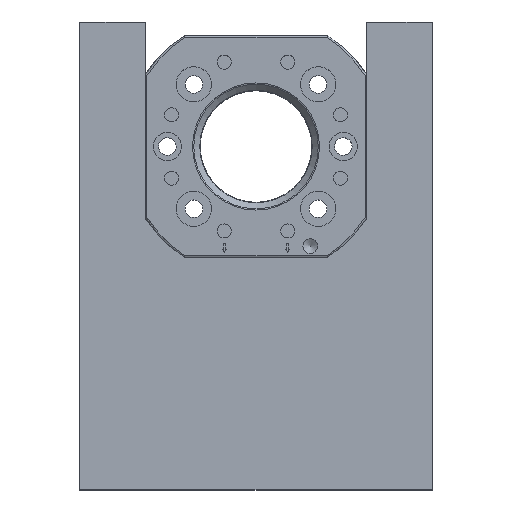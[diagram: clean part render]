
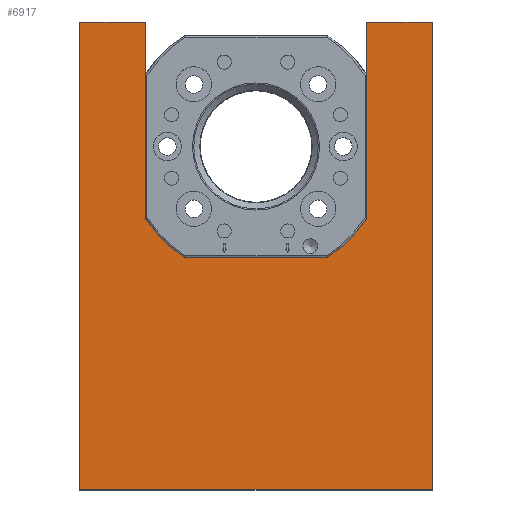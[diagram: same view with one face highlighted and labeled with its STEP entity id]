
A CAD part, top view. The second image highlights one B-rep face of the part: STEP entity #6917.
In plain terms, the highlighted planar face has unit normal (0, 0, 1).
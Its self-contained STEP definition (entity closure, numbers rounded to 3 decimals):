
#469=CIRCLE('',#7561,37.5);
#470=CIRCLE('',#7564,37.5);
#1518=FACE_OUTER_BOUND('',#1979,.T.);
#1979=EDGE_LOOP('',(#6343,#6344,#6345,#6346,#6347,#6348,#6349,#6350,#6351,
#6352));
#2431=LINE('',#13901,#2899);
#2434=LINE('',#13909,#2902);
#2437=LINE('',#13917,#2905);
#2439=LINE('',#13921,#2907);
#2441=LINE('',#13925,#2909);
#2443=LINE('',#13929,#2911);
#2445=LINE('',#13933,#2913);
#2447=LINE('',#13936,#2915);
#2899=VECTOR('',#9231,10.);
#2902=VECTOR('',#9240,10.);
#2905=VECTOR('',#9249,10.);
#2907=VECTOR('',#9253,10.);
#2909=VECTOR('',#9257,10.);
#2911=VECTOR('',#9261,10.);
#2913=VECTOR('',#9265,10.);
#2915=VECTOR('',#9269,10.);
#3532=VERTEX_POINT('',#13898);
#3533=VERTEX_POINT('',#13900);
#3534=VERTEX_POINT('',#13904);
#3535=VERTEX_POINT('',#13908);
#3536=VERTEX_POINT('',#13912);
#3537=VERTEX_POINT('',#13916);
#3538=VERTEX_POINT('',#13920);
#3539=VERTEX_POINT('',#13924);
#3540=VERTEX_POINT('',#13928);
#3541=VERTEX_POINT('',#13932);
#4460=EDGE_CURVE('',#3533,#3532,#2431,.T.);
#4462=EDGE_CURVE('',#3534,#3533,#469,.T.);
#4464=EDGE_CURVE('',#3535,#3534,#2434,.T.);
#4466=EDGE_CURVE('',#3536,#3535,#470,.T.);
#4468=EDGE_CURVE('',#3537,#3536,#2437,.T.);
#4470=EDGE_CURVE('',#3538,#3537,#2439,.T.);
#4472=EDGE_CURVE('',#3539,#3538,#2441,.T.);
#4474=EDGE_CURVE('',#3540,#3539,#2443,.T.);
#4476=EDGE_CURVE('',#3541,#3540,#2445,.T.);
#4478=EDGE_CURVE('',#3532,#3541,#2447,.T.);
#6343=ORIENTED_EDGE('',*,*,#4478,.T.);
#6344=ORIENTED_EDGE('',*,*,#4476,.T.);
#6345=ORIENTED_EDGE('',*,*,#4474,.T.);
#6346=ORIENTED_EDGE('',*,*,#4472,.T.);
#6347=ORIENTED_EDGE('',*,*,#4470,.T.);
#6348=ORIENTED_EDGE('',*,*,#4468,.T.);
#6349=ORIENTED_EDGE('',*,*,#4466,.T.);
#6350=ORIENTED_EDGE('',*,*,#4464,.T.);
#6351=ORIENTED_EDGE('',*,*,#4462,.T.);
#6352=ORIENTED_EDGE('',*,*,#4460,.T.);
#6522=PLANE('',#7571);
#6917=ADVANCED_FACE('',(#1518),#6522,.F.);
#7561=AXIS2_PLACEMENT_3D('',#13905,#9235,#9236);
#7564=AXIS2_PLACEMENT_3D('',#13913,#9244,#9245);
#7571=AXIS2_PLACEMENT_3D('',#13937,#9270,#9271);
#9231=DIRECTION('',(0.,1.,0.));
#9235=DIRECTION('center_axis',(0.,0.,
-1.));
#9236=DIRECTION('ref_axis',(0.543,0.84,0.));
#9240=DIRECTION('',(-1.,0.,0.));
#9244=DIRECTION('center_axis',(0.,0.,
-1.));
#9245=DIRECTION('ref_axis',(-0.84,0.543,0.));
#9249=DIRECTION('',(0.,-1.,0.));
#9253=DIRECTION('',(-1.,0.,0.));
#9257=DIRECTION('',(0.,1.,0.));
#9261=DIRECTION('',(1.,0.,0.));
#9265=DIRECTION('',(0.,-1.,0.));
#9269=DIRECTION('',(-1.,0.,0.));
#9270=DIRECTION('center_axis',(0.,0.,
-1.));
#9271=DIRECTION('ref_axis',(1.,0.,0.));
#13898=CARTESIAN_POINT('',(-31.5,35.394,-94.399));
#13900=CARTESIAN_POINT('',(-31.5,-20.347,-94.399));
#13901=CARTESIAN_POINT('',(-31.5,35.394,-94.399));
#13904=CARTESIAN_POINT('',(-20.347,-31.5,-94.399));
#13905=CARTESIAN_POINT('Origin',(0.,0.,
-94.399));
#13908=CARTESIAN_POINT('',(20.347,-31.5,-94.399));
#13909=CARTESIAN_POINT('',(-20.347,-31.5,-94.399));
#13912=CARTESIAN_POINT('',(31.5,-20.347,-94.399));
#13913=CARTESIAN_POINT('Origin',(0.,0.,
-94.399));
#13916=CARTESIAN_POINT('',(31.5,35.394,-94.399));
#13917=CARTESIAN_POINT('',(31.5,20.347,-94.399));
#13920=CARTESIAN_POINT('',(50.061,35.394,-94.399));
#13921=CARTESIAN_POINT('',(31.5,35.394,-94.399));
#13924=CARTESIAN_POINT('',(50.061,-97.606,-94.399));
#13925=CARTESIAN_POINT('',(50.061,35.394,-94.399));
#13928=CARTESIAN_POINT('',(-50.061,-97.606,-94.399));
#13929=CARTESIAN_POINT('',(50.061,-97.606,-94.399));
#13932=CARTESIAN_POINT('',(-50.061,35.394,-94.399));
#13933=CARTESIAN_POINT('',(-50.061,-97.606,-94.399));
#13936=CARTESIAN_POINT('',(-50.061,35.394,-94.399));
#13937=CARTESIAN_POINT('Origin',(0.,-30.735,
-94.399));
